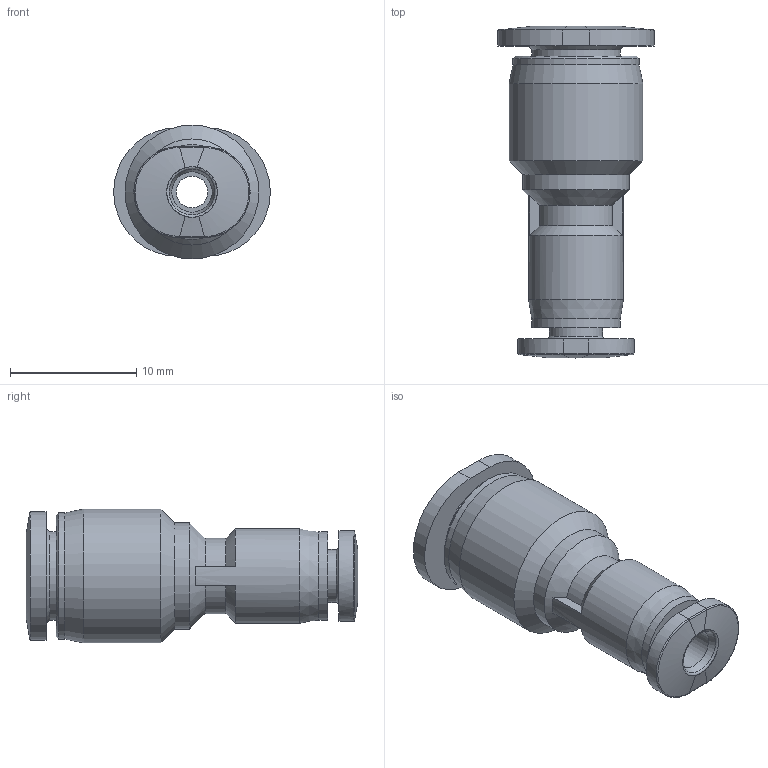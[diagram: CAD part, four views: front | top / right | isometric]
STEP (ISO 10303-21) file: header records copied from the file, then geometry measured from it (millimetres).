
FILE_DESCRIPTION((''),'2;1');
FILE_NAME('D:\INVENTOR\[New Inventor]\CDC Products 3D Ass''y\Compact\Metric\PG-C\PG0603C.stp','2009-02-11T11:27:02',('Microsoft'),(''),'Autodesk Inventor 2008','Autodesk Inventor 2008','');
FILE_SCHEMA(('AUTOMOTIVE_DESIGN { 1 0 10303 214 1 1 1 1 }'));
Length unit declared in the file: millimetre
Products named in the file (1): PG0603C
Bounding box: 12.4 x 26.28 x 10.6 mm (x, y, z)
Volume: 1086.4 mm3; surface area: 1418.4 mm2
Topology: 1 solids, 1 shells, 60 faces, 130 edges, 78 vertices
Faces by surface type: bspline 16, cylinder 16, plane 16, cone 10, torus 2
Full cylindrical faces by diameter (mm): 2.5 x1, 3.2 x1, 4.2 x1, 6.2 x1, 7 x2, 7.5 x1, 8.4 x1, 10 x1, 10.6 x1
Entity records: 2644 total; most frequent: CARTESIAN_POINT 1469, DIRECTION 222, ORIENTED_EDGE 218, EDGE_CURVE 109, AXIS2_PLACEMENT_3D 100, EDGE_LOOP 88, VERTEX_POINT 77, FACE_OUTER_BOUND 60
